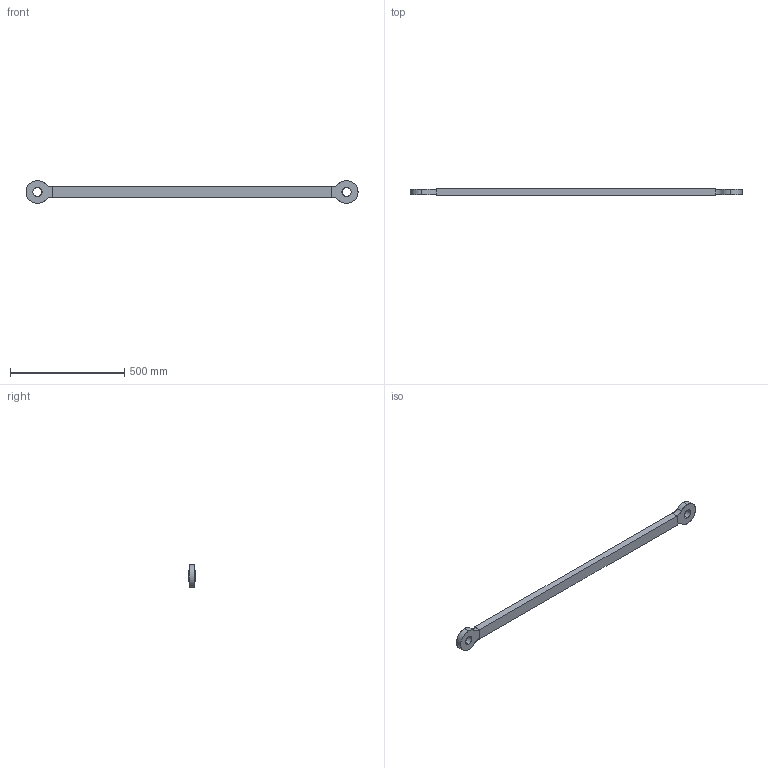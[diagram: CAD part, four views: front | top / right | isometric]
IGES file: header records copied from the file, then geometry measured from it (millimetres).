
Start section: SolidWorks IGES file using analytic representation for surfaces
Global section: file name: C:\Data\Lättmodeller\Nytt\660\IRB660_180-315_IRC5_rev03\IRB660_180-315_IRC5_rev03_IRC5_IGES_j\IRB660_180-315_LINK_H_CAD_rev02.IGS; native system: SolidWorks 2014; preprocessor: SolidWorks 2014; author: seadbov; date: 161202.130153; units: millimetre
Bounding box: 1450 x 30 x 100 mm (x, y, z)
Surface area: 247143.7 mm2 (no closed solid volume)
Topology: 0 solids, 0 shells, 28 faces, 500 edges, 500 vertices
Faces by surface type: revolution 14, bspline 14
